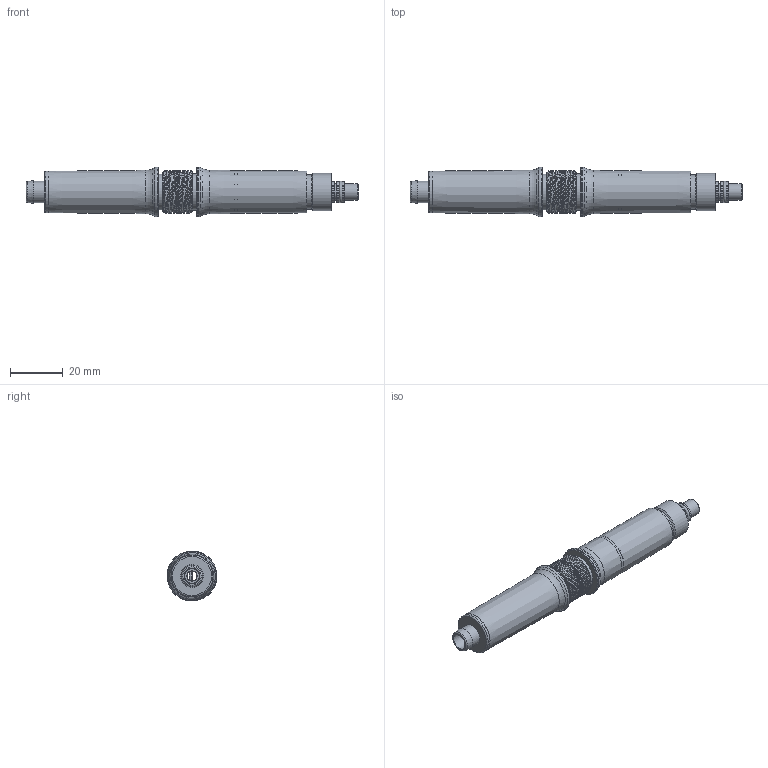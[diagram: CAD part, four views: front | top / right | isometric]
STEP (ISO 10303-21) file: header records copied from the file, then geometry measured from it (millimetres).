
FILE_DESCRIPTION( ( 'Unknown' ), '1' );
FILE_NAME( 'C:/Documents and Settings/Owner/官帕 拳搁/VC252S.stp', 'Unknown', ( 'Unknown' ), ( 'Unknown' ), 'PSStep 10.0', 'Unknown', ' ' );
FILE_SCHEMA( ( 'AUTOMOTIVE_DESIGN { 1 0 10303 214 1 1 1 1 }' ) );
Length unit declared in the file: millimetre
Products named in the file (12): Assem1; VC252; Nozzle Body-252; Nozzle-C2.53-O-Ring; Housing-VC252; Check valve-2.5-2(熱薑16.01.15-LM; Stopring-253; Silencer Cover(203); Sponge-1; Silencer End cap(203)
Bounding box: 125.3 x 18.8 x 18.8 mm (x, y, z)
Volume: 30111.5 mm3; surface area: 48506 mm2
Topology: 29 solids, 29 shells, 1620 faces, 3905 edges, 2373 vertices
Faces by surface type: plane 580, cylinder 505, torus 351, sphere 84, bspline 58, cone 42
Full cylindrical faces by diameter (mm): 3.6 x3, 3.8 x3, 5.4 x3, 5.5 x3, 6 x6, 6.2 x3, 6.3 x6, 6.308 x3, 6.6 x6, 7 x3, 7.4 x9, 7.8 x9, 8 x5, 8.2 x6, 8.4 x3, 8.412 x3, 8.6 x6, 9.1 x2, 9.2 x3, 9.9 x6, 10 x21, 11 x15, 12 x9, 13 x6, 13.6 x2, 14 x15, 14.5 x4, 15.8 x2, 18.8 x2
Entity records: 25640 total; most frequent: CARTESIAN_POINT 8837, DIRECTION 2580, ORIENTED_EDGE 2288, EDGE_CURVE 1144, AXIS2_PLACEMENT_3D 1063, EDGE_LOOP 782, VERTEX_POINT 782, FACE_OUTER_BOUND 684
